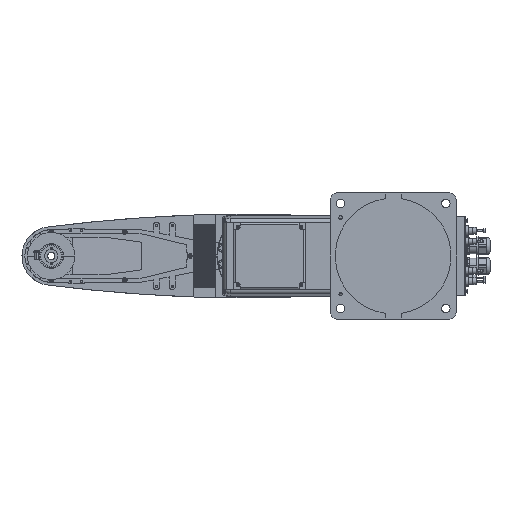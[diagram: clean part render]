
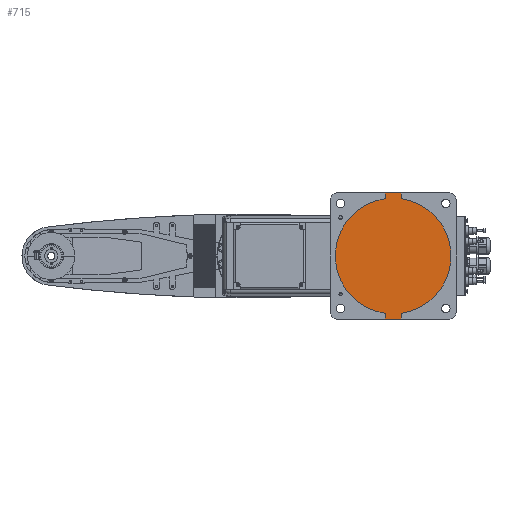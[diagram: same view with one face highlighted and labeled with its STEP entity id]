
A CAD part, front view. The second image highlights one B-rep face of the part: STEP entity #715.
In plain terms, the highlighted planar face has unit normal (0, -1, 0).
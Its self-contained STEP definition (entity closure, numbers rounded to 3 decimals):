
#715 = ADVANCED_FACE( '', ( #3256 ), #3257, .F. );
#3256 = FACE_OUTER_BOUND( '', #7989, .T. );
#3257 = PLANE( '', #7990 );
#7989 = EDGE_LOOP( '', ( #14374, #14375, #14376, #14377, #14378, #14379, #14380, #14381 ) );
#7990 = AXIS2_PLACEMENT_3D( '', #14382, #14383, #14384 );
#14374 = ORIENTED_EDGE( '', *, *, #30484, .T. );
#14375 = ORIENTED_EDGE( '', *, *, #30432, .F. );
#14376 = ORIENTED_EDGE( '', *, *, #30485, .T. );
#14377 = ORIENTED_EDGE( '', *, *, #30486, .T. );
#14378 = ORIENTED_EDGE( '', *, *, #30487, .T. );
#14379 = ORIENTED_EDGE( '', *, *, #30488, .F. );
#14380 = ORIENTED_EDGE( '', *, *, #30489, .T. );
#14381 = ORIENTED_EDGE( '', *, *, #30490, .T. );
#14382 = CARTESIAN_POINT( '', ( 0., 6., 0. ) );
#14383 = DIRECTION( '', ( 0., 1., 0. ) );
#14384 = DIRECTION( '', ( 0., 0., 1. ) );
#30432 = EDGE_CURVE( '', #36602, #36604, #36605, .T. );
#30484 = EDGE_CURVE( '', #36694, #36604, #36695, .T. );
#30485 = EDGE_CURVE( '', #36602, #36696, #36697, .T. );
#30486 = EDGE_CURVE( '', #36696, #36698, #36699, .T. );
#30487 = EDGE_CURVE( '', #36698, #36700, #36701, .T. );
#30488 = EDGE_CURVE( '', #36702, #36700, #36703, .T. );
#30489 = EDGE_CURVE( '', #36702, #36704, #36705, .T. );
#30490 = EDGE_CURVE( '', #36704, #36694, #36706, .T. );
#36602 = VERTEX_POINT( '', #46318 );
#36604 = VERTEX_POINT( '', #46321 );
#36605 = LINE( '', #46322, #46323 );
#36694 = VERTEX_POINT( '', #46443 );
#36695 = LINE( '', #46444, #46445 );
#36696 = VERTEX_POINT( '', #46446 );
#36697 = LINE( '', #46447, #46448 );
#36698 = VERTEX_POINT( '', #46449 );
#36699 = CIRCLE( '', #46450, 110. );
#36700 = VERTEX_POINT( '', #46451 );
#36701 = LINE( '', #46452, #46453 );
#36702 = VERTEX_POINT( '', #46454 );
#36703 = LINE( '', #46455, #46456 );
#36704 = VERTEX_POINT( '', #46457 );
#36705 = LINE( '', #46458, #46459 );
#36706 = CIRCLE( '', #46460, 110. );
#46318 = CARTESIAN_POINT( '', ( 15., 6., -120. ) );
#46321 = CARTESIAN_POINT( '', ( -15., 6., -120. ) );
#46322 = CARTESIAN_POINT( '', ( -52.5, 6., -120. ) );
#46323 = VECTOR( '', #60218, 1. );
#46443 = CARTESIAN_POINT( '', ( -15., 6., -108.972 ) );
#46444 = CARTESIAN_POINT( '', ( -15., 6., -120. ) );
#46445 = VECTOR( '', #60310, 1. );
#46446 = CARTESIAN_POINT( '', ( 15., 6., -108.972 ) );
#46447 = CARTESIAN_POINT( '', ( 15., 6., -108.972 ) );
#46448 = VECTOR( '', #60311, 1. );
#46449 = CARTESIAN_POINT( '', ( 15., 6., 108.972 ) );
#46450 = AXIS2_PLACEMENT_3D( '', #60312, #60313, #60314 );
#46451 = CARTESIAN_POINT( '', ( 15., 6., 120. ) );
#46452 = CARTESIAN_POINT( '', ( 15., 6., 120. ) );
#46453 = VECTOR( '', #60315, 1. );
#46454 = CARTESIAN_POINT( '', ( -15., 6., 120. ) );
#46455 = CARTESIAN_POINT( '', ( 52.5, 6., 120. ) );
#46456 = VECTOR( '', #60316, 1. );
#46457 = CARTESIAN_POINT( '', ( -15., 6., 108.972 ) );
#46458 = CARTESIAN_POINT( '', ( -15., 6., 108.972 ) );
#46459 = VECTOR( '', #60317, 1. );
#46460 = AXIS2_PLACEMENT_3D( '', #60318, #60319, #60320 );
#60218 = DIRECTION( '', ( -1., 0., 0. ) );
#60310 = DIRECTION( '', ( 0., 0., -1. ) );
#60311 = DIRECTION( '', ( 0., 0., 1. ) );
#60312 = CARTESIAN_POINT( '', ( 0., 6., 0. ) );
#60313 = DIRECTION( '', ( 0., -1., 0. ) );
#60314 = DIRECTION( '', ( 0.136, 0., 0.991 ) );
#60315 = DIRECTION( '', ( 0., 0., 1. ) );
#60316 = DIRECTION( '', ( 1., 0., 0. ) );
#60317 = DIRECTION( '', ( 0., 0., -1. ) );
#60318 = CARTESIAN_POINT( '', ( 0., 6., 0. ) );
#60319 = DIRECTION( '', ( 0., -1., 0. ) );
#60320 = DIRECTION( '', ( -0.136, 0., -0.991 ) );
